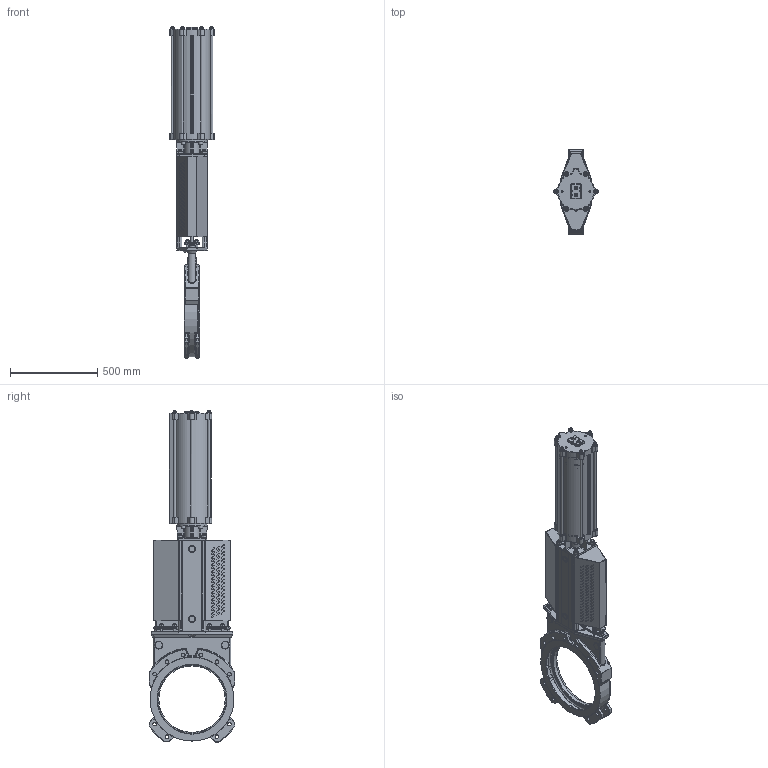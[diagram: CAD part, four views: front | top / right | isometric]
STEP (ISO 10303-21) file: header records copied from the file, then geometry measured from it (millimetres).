
FILE_DESCRIPTION(/* description */ (''),/* implementation_level */ '2;1');
FILE_NAME(/* name */ 'F:\Emir\3D-block special\MV VALVE\MV-DN400-PN10-FRSC200-450.stp',/* time_stamp */ '2018-04-27T11:17:58+02:00',/* author */ ('emimus'),/* organization */ (''),/* preprocessor_version */ 'ST-DEVELOPER v17',/* originating_system */ 'Autodesk Inventor 2018',/* authorisation */ '');
FILE_SCHEMA (('CONFIG_CONTROL_DESIGN'));
Products named in the file (1): MV-DN400-PN10-FRSC200-450
Bounding box: 256 x 490 x 1900 mm (x, y, z)
Volume: 20749158.4 mm3; surface area: 4716204.1 mm2
Topology: 3 solids, 3 shells, 3540 faces, 8983 edges, 5567 vertices
Faces by surface type: plane 1223, cylinder 1095, bspline 402, torus 325, cone 289, sphere 206
Full cylindrical faces by diameter (mm): 3.5 x2, 3.6 x2, 4 x2, 4.2 x12, 4.5 x8, 4.917 x7, 6.647 x6, 7.5 x4, 8.376 x4, 9.5 x2, 9.7 x2, 10 x9, 10.106 x10, 12 x28, 13 x26, 13.835 x4, 14.95 x2, 15 x8, 16 x12, 17 x4, 18 x3, 18.631 x2, 20.752 x20, 24 x25, 25 x1, 28 x4, 30 x4, 33 x1, 36 x2, 40 x5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
Entity records: 122598 total; most frequent: CARTESIAN_POINT 37385, DIRECTION 18180, ORIENTED_EDGE 17842, EDGE_CURVE 8921, AXIS2_PLACEMENT_3D 7343, VERTEX_POINT 5567, EDGE_LOOP 4092, CIRCLE 3919
